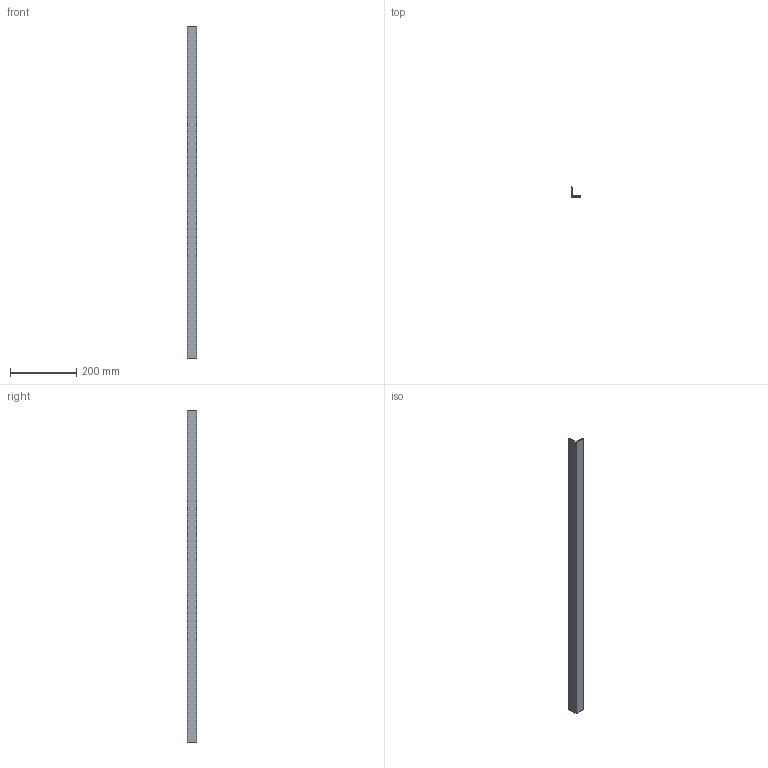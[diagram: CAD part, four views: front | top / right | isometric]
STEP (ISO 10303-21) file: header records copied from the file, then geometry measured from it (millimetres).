
FILE_DESCRIPTION (( 'STEP AP214' ), '1' );
FILE_NAME ('30x30x4.STEP', '2025-02-27T12:16:18', ( '' ), ( '' ), 'SwSTEP 2.0', 'SolidWorks 2023', '' );
FILE_SCHEMA (( 'AUTOMOTIVE_DESIGN' ));
Length unit declared in the file: millimetre
Products named in the file (1): 30x30x4
Bounding box: 30 x 30 x 1000 mm (x, y, z)
Volume: 217132.7 mm3; surface area: 117000.6 mm2
Topology: 1 solids, 1 shells, 8 faces, 18 edges, 12 vertices
Faces by surface type: plane 6, cylinder 2
Entity records: 249 total; most frequent: DIRECTION 40, CARTESIAN_POINT 39, ORIENTED_EDGE 36, EDGE_CURVE 18, VECTOR 14, LINE 14, AXIS2_PLACEMENT_3D 13, VERTEX_POINT 12
